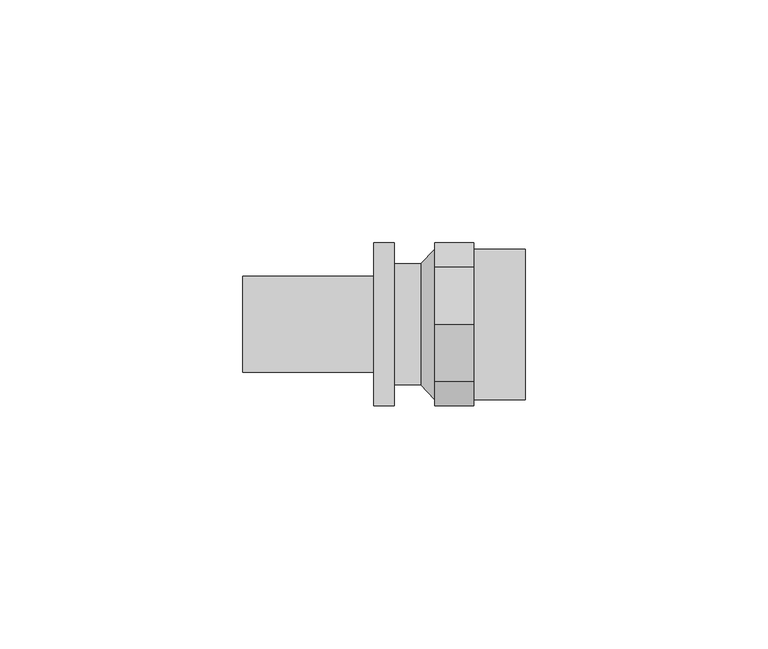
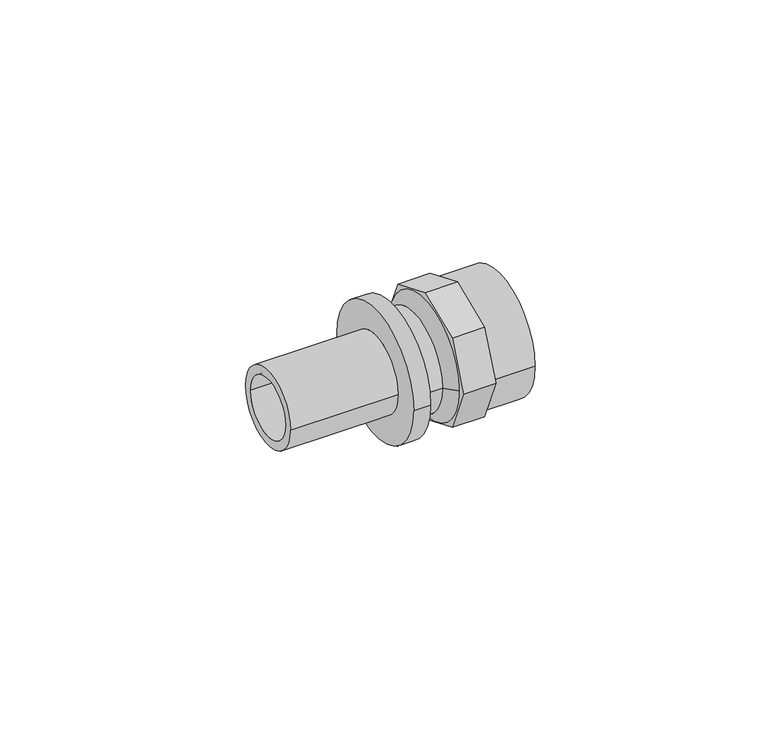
"""IFC4 building model written with IfcOpenShell, lengths in millimetres: pipe fitting geometry, REHAU_RAUTITAN_Adaptor_RX+, with internal thread : REHAU_RAUTITAN_Adaptor_RX+, with internal thread."""

from ifc_helpers import new_model, si_unit, point, frame, origin, origin_2d, place, context, project, spatial, polyline, circle_curve, trimmed, segment, composite_curve, outline, extrude, source, transform, mapped, element, save
from ifc_brep_helpers import plane_surface, cylinder_surface, revolved_surface, advanced_brep


def pipe_fitting_bdaba8f8(model_context):
    return source(origin(), model_context, "Body", "SolidModel", [
        extrude(outline(polyline([(-11.8631864, 11.8631864), (0.0, 16.7770791), (11.8631864, 11.8631864), (16.7770791, 0.0), (11.8631864, -11.8631864), (0.0, -16.7770791), (-11.8631864, -11.8631864), (-16.7770791, 0.0), (-11.8631864, 11.8631864)]), holes=[composite_curve([segment(trimmed(circle_curve(origin_2d(), 9.5), [point((-9.5, 0.0))], [point((9.5, 0.0))], True, "CARTESIAN"), True, "CONTINUOUS"), segment(trimmed(circle_curve(origin_2d(), 9.5), [point((9.5, 0.0))], [point((-9.5, 0.0))], True, "CARTESIAN"), True, "CONTINUOUS")], self_intersect=False)]), frame((-4.055, 0.0, 0.0), z_axis=(1.0, 0.0, 0.0), x_axis=(0.0, 1.0, 0.0)), (0.0, 0.0, 1.0), 8.11),
        extrude(outline(composite_curve([segment(trimmed(circle_curve(origin_2d(), 15.5), [point((-15.5, 0.0))], [point((15.5, 0.0))], False, "CARTESIAN"), True, "CONTINUOUS"), segment(trimmed(circle_curve(origin_2d(), 15.5), [point((15.5, 0.0))], [point((-15.5, 0.0))], False, "CARTESIAN"), True, "CONTINUOUS")], self_intersect=False), holes=[composite_curve([segment(trimmed(circle_curve(origin_2d(), 13.075), [point((-13.075, 0.0))], [point((13.075, 0.0))], True, "CARTESIAN"), True, "CONTINUOUS"), segment(trimmed(circle_curve(origin_2d(), 13.075), [point((13.075, 0.0))], [point((-13.075, 0.0))], True, "CARTESIAN"), True, "CONTINUOUS")], self_intersect=False)]), frame((4.055, 0.0, 0.0), z_axis=(1.0, 0.0, 0.0), x_axis=(0.0, 1.0, 0.0)), (0.0, 0.0, 1.0), 10.575),
        advanced_brep(
        [(-6.95, 12.5, 0.0), (-6.95, -12.5, 0.0), (-12.37, -12.5, 0.0), (-12.37, 12.5, 0.0), (-4.06, 15.5, 0.0), (-4.06, -15.5, 0.0), (-6.95, 9.75, 0.0), (-6.95, -9.75, 0.0), (-4.06, -13.075, 0.0), (-4.06, 13.075, 0.0), (-43.57, 7.6, 0.0), (-43.57, -7.6, 0.0), (-12.37, -7.6, 0.0), (-12.37, 7.6, 0.0), (-16.58, 9.875, 0.0), (-16.58, -9.875, 0.0), (-43.57, -9.875, 0.0), (-43.57, 9.875, 0.0), (-12.37, 16.795, 0.0), (-12.37, -16.795, 0.0), (-16.58, -16.795, 0.0), (-16.58, 16.795, 0.0)],
        [
            (0, 1, circle_curve(frame((-6.95, 0.0, 0.0), z_axis=(-1.0, 0.0, 0.0), x_axis=(0.0, -1.0, 0.0)), 12.5)),
            (1, 2),
            (2, 3, circle_curve(frame((-12.37, 0.0, 0.0), z_axis=(1.0, 0.0, 0.0), x_axis=(0.0, -1.0, 0.0)), 12.5)),
            (3, 0),
            (4, 5, circle_curve(frame((-4.06, 0.0, 0.0), z_axis=(-1.0, 0.0, 0.0), x_axis=(0.0, -1.0, 0.0)), 15.5)),
            (5, 1),
            (0, 4),
            (6, 7, circle_curve(frame((-6.95, 0.0, 0.0), z_axis=(-1.0, 0.0, 0.0), x_axis=(0.0, -1.0, 0.0)), 9.75)),
            (7, 8),
            (8, 9, circle_curve(frame((-4.06, 0.0, 0.0), z_axis=(1.0, 0.0, 0.0), x_axis=(0.0, -1.0, 0.0)), 13.075)),
            (9, 6),
            (10, 11, circle_curve(frame((-43.57, 0.0, 0.0), z_axis=(-1.0, 0.0, 0.0), x_axis=(0.0, -1.0, 0.0)), 7.6)),
            (11, 12),
            (12, 13, circle_curve(frame((-12.37, 0.0, 0.0), z_axis=(1.0, 0.0, 0.0), x_axis=(0.0, -1.0, 0.0)), 7.6)),
            (13, 10),
            (14, 15, circle_curve(frame((-16.58, 0.0, 0.0), z_axis=(-1.0, 0.0, 0.0), x_axis=(0.0, -1.0, 0.0)), 9.875)),
            (15, 16),
            (16, 17, circle_curve(frame((-43.57, 0.0, 0.0), z_axis=(1.0, 0.0, 0.0), x_axis=(0.0, -1.0, 0.0)), 9.875)),
            (17, 14),
            (18, 19, circle_curve(frame((-12.37, 0.0, 0.0), z_axis=(-1.0, 0.0, 0.0), x_axis=(0.0, -1.0, 0.0)), 16.795)),
            (19, 20),
            (20, 21, circle_curve(frame((-16.58, 0.0, 0.0), z_axis=(1.0, 0.0, 0.0), x_axis=(0.0, -1.0, 0.0)), 16.795)),
            (21, 18),
            (18, 19, circle_curve(frame((-12.37, 0.0, 0.0), z_axis=(1.0, 0.0, 0.0), x_axis=(0.0, 1.0, 0.0)), 16.795)),
            (2, 3, circle_curve(frame((-12.37, 0.0, 0.0), z_axis=(-1.0, 0.0, 0.0), x_axis=(0.0, 1.0, 0.0)), 12.5)),
            (1, 0, circle_curve(frame((-6.95, 0.0, 0.0), z_axis=(-1.0, 0.0, 0.0), x_axis=(0.0, 1.0, 0.0)), 12.5)),
            (5, 4, circle_curve(frame((-4.06, 0.0, 0.0), z_axis=(-1.0, 0.0, 0.0), x_axis=(0.0, 1.0, 0.0)), 15.5)),
            (7, 6, circle_curve(frame((-6.95, 0.0, 0.0), z_axis=(-1.0, 0.0, 0.0), x_axis=(0.0, 1.0, 0.0)), 9.75)),
            (9, 8, circle_curve(frame((-4.06, 0.0, 0.0), z_axis=(1.0, 0.0, 0.0), x_axis=(0.0, 1.0, 0.0)), 13.075)),
            (11, 10, circle_curve(frame((-43.57, 0.0, 0.0), z_axis=(-1.0, 0.0, 0.0), x_axis=(0.0, 1.0, 0.0)), 7.6)),
            (13, 12, circle_curve(frame((-12.37, 0.0, 0.0), z_axis=(1.0, 0.0, 0.0), x_axis=(0.0, 1.0, 0.0)), 7.6)),
            (16, 17, circle_curve(frame((-43.57, 0.0, 0.0), z_axis=(-1.0, 0.0, 0.0), x_axis=(0.0, 1.0, 0.0)), 9.875)),
            (15, 14, circle_curve(frame((-16.58, 0.0, 0.0), z_axis=(-1.0, 0.0, 0.0), x_axis=(0.0, 1.0, 0.0)), 9.875)),
            (20, 21, circle_curve(frame((-16.58, 0.0, 0.0), z_axis=(-1.0, 0.0, 0.0), x_axis=(0.0, 1.0, 0.0)), 16.795)),
            (12, 7),
            (6, 13),
        ],
        [
            cylinder_surface(frame((0.0, 0.0, 0.0), z_axis=(1.0, 0.0, 0.0), x_axis=(0.0, -1.0, 0.0)), 12.5),
            revolved_surface(polyline([(-6.95, -12.5, 0.0), (-4.06, -15.5, 0.0)]), (0.0, 0.0, 0.0), (1.0, 0.0, 0.0)),
            revolved_surface(polyline([(-4.06, -13.075, 0.0), (-6.95, -9.75, 0.0)]), (0.0, 0.0, 0.0), (1.0, 0.0, 0.0)),
            revolved_surface(polyline([(-12.37, -7.6, 0.0), (-43.57, -7.6, 0.0)]), (0.0, 0.0, 0.0), (1.0, 0.0, 0.0)),
            cylinder_surface(frame((0.0, 0.0, 0.0), z_axis=(1.0, 0.0, 0.0), x_axis=(0.0, -1.0, 0.0)), 9.875),
            cylinder_surface(frame((0.0, 0.0, 0.0), z_axis=(1.0, 0.0, 0.0), x_axis=(0.0, -1.0, 0.0)), 16.795),
            plane_surface(frame((-12.37, 0.0, 0.0), z_axis=(1.0, 0.0, 0.0), x_axis=(0.0, 1.0, 0.0))),
            cylinder_surface(frame((0.0, 0.0, 0.0), z_axis=(1.0, 0.0, 0.0), x_axis=(0.0, 1.0, 0.0)), 12.5),
            revolved_surface(polyline([(-6.95, 12.5, 0.0), (-4.06, 15.5, 0.0)]), (0.0, 0.0, 0.0), (1.0, 0.0, 0.0)),
            revolved_surface(polyline([(-4.06, 13.075, 0.0), (-6.95, 9.75, 0.0)]), (0.0, 0.0, 0.0), (1.0, 0.0, 0.0)),
            revolved_surface(polyline([(-12.37, 7.6, 0.0), (-43.57, 7.6, 0.0)]), (0.0, 0.0, 0.0), (1.0, 0.0, 0.0)),
            plane_surface(frame((-43.57, 0.0, 0.0), z_axis=(-1.0, 0.0, 0.0), x_axis=(0.0, 1.0, 0.0))),
            cylinder_surface(frame((0.0, 0.0, 0.0), z_axis=(1.0, 0.0, 0.0), x_axis=(0.0, 1.0, 0.0)), 9.875),
            plane_surface(frame((-16.58, 0.0, 0.0), z_axis=(-1.0, 0.0, 0.0), x_axis=(0.0, 1.0, 0.0))),
            cylinder_surface(frame((0.0, 0.0, 0.0), z_axis=(1.0, 0.0, 0.0), x_axis=(0.0, 1.0, 0.0)), 16.795),
            revolved_surface(polyline([(-6.95, -9.75, 0.0), (-12.37, -7.6, 0.0)]), (0.0, 0.0, 0.0), (1.0, 0.0, 0.0)),
            revolved_surface(polyline([(-6.95, 9.75, 0.0), (-12.37, 7.6, 0.0)]), (0.0, 0.0, 0.0), (1.0, 0.0, 0.0)),
            plane_surface(frame((-4.06, 0.0, 0.0), z_axis=(1.0, 0.0, 0.0), x_axis=(0.0, 1.0, 0.0))),
        ],
        [
            (0, [[1, 2, 3, 4]]),
            (1, [[5, 6, -1, 7]]),
            (2, [[8, 9, 10, 11]]),
            (3, [[12, 13, 14, 15]]),
            (4, [[16, 17, 18, 19]]),
            (5, [[20, 21, 22, 23]]),
            (6, [[24, -20], [25, -3]]),
            (7, [[26, -4, -25, -2]]),
            (8, [[27, -7, -26, -6]]),
            (9, [[28, -11, 29, -9]]),
            (10, [[30, -15, 31, -13]]),
            (11, [[32, -18], [-30, -12]]),
            (12, [[33, -19, -32, -17]]),
            (13, [[34, -22], [-33, -16]]),
            (14, [[-24, -23, -34, -21]]),
            (15, [[-14, 35, -8, 36]]),
            (16, [[-31, -36, -28, -35]]),
            (17, [[-27, -5], [-29, -10]]),
        ],
    ),
    ])


if __name__ == "__main__":
    model = new_model("IFC4")
    model_context = context("Model", 3, world=origin())
    ifc_project = project(units=[si_unit("LENGTHUNIT", "METRE", prefix="MILLI")], contexts=[model_context])
    site = spatial("IfcSite", under=ifc_project)
    building = spatial("IfcBuilding", under=site)
    placement = place(None, origin())
    pipe_fitting_shape = pipe_fitting_bdaba8f8(model_context)
    element("IfcPipeFitting", 1, ObjectType="REHAU_RAUTITAN_Adaptor_RX+, with internal thread : REHAU_RAUTITAN_Adaptor_RX+, with internal thread", at=placement, inside=building, context=model_context, shape_type="MappedRepresentation", body=[
        mapped(pipe_fitting_shape, transform((0.0, 0.0, 0.0), x_axis=(1.0, 0.0, 0.0), y_axis=(0.0, 1.0, 0.0), z_axis=(0.0, 0.0, 1.0))),
    ])
    save(model, "model.ifc")
